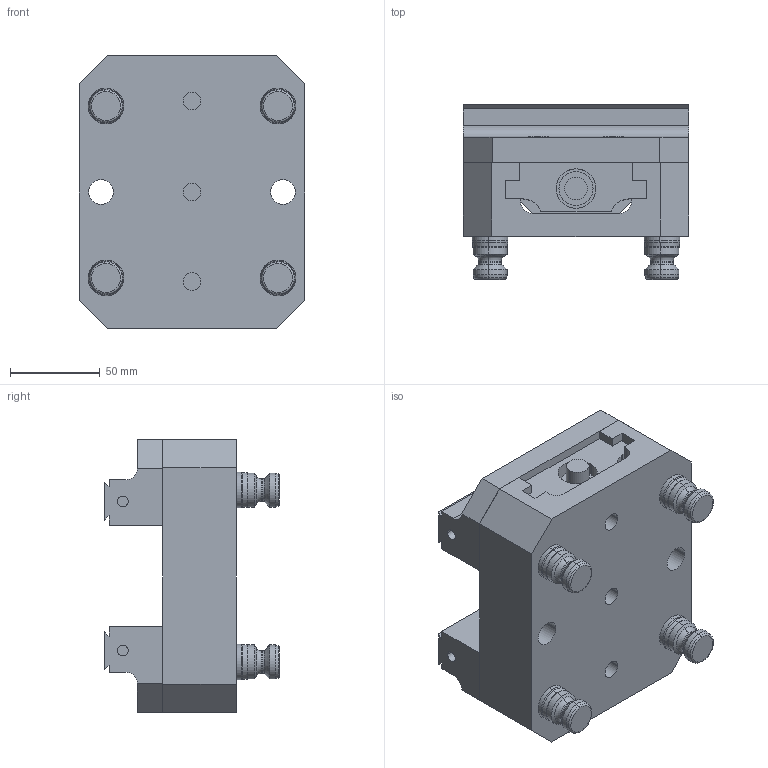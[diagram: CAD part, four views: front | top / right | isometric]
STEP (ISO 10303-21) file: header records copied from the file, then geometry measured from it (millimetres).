
FILE_DESCRIPTION (( 'STEP AP214' ), '1' );
FILE_NAME ('D_R96-V562X.STEP', '2020-06-01T21:12:19', ( '' ), ( '' ), 'SwSTEP 2.0', 'SolidWorks 2018', '' );
FILE_SCHEMA (( 'AUTOMOTIVE_DESIGN' ));
Length unit declared in the file: millimetre
Products named in the file (6): D_V562X-1; D_R96-V562X; D_V562X; D_PS20F_HARD TURN; D_V562X-2; D_V562X-5
Assembly tree (10 placements, depth 3):
  D_R96-V562X
    D_V562X
      D_V562X-1
      D_V562X-2  x2
      D_V562X-5  x2
    D_PS20F_HARD TURN  x4
Bounding box: 125.73 x 97.64 x 152.4 mm (x, y, z)
Volume: 892288.1 mm3; surface area: 179910 mm2
Topology: 9 solids, 9 shells, 461 faces, 1022 edges, 636 vertices
Faces by surface type: plane 179, cylinder 178, torus 64, cone 40
Entity records: 7480 total; most frequent: DIRECTION 1243, CARTESIAN_POINT 1147, ORIENTED_EDGE 1066, EDGE_CURVE 533, AXIS2_PLACEMENT_3D 470, VERTEX_POINT 342, LINE 303, VECTOR 303
